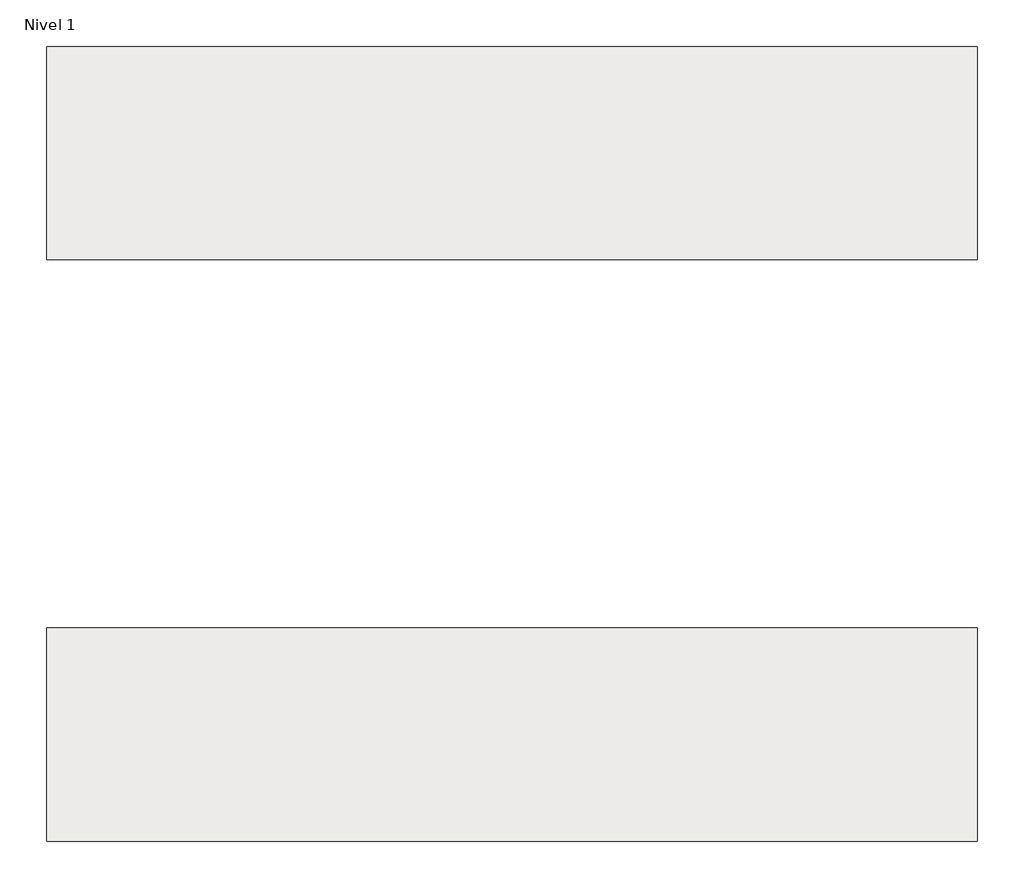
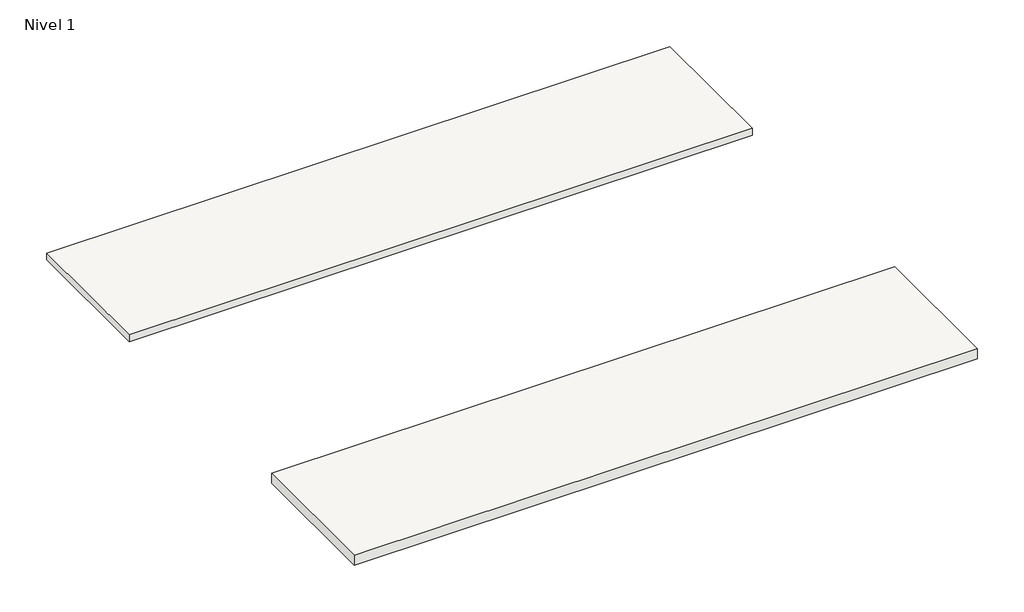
# One storey: 2 coverings.
"""IFC4 building model written with IfcOpenShell, lengths in millimetres."""

from ifc_helpers import new_model, si_unit, frame, origin, place, context, project, spatial, polyline, outline, extrude, element, save

model = new_model("IFC4")

# Units and contexts
model_context = context("Model", 3, world=origin())
ifc_project = project(units=[si_unit("LENGTHUNIT", "METRE", prefix="MILLI")], contexts=[model_context])

# Site, building, storey
site = spatial("IfcSite", under=ifc_project)
building = spatial("IfcBuilding", under=site)
storey = spatial("IfcBuildingStorey", under=building, Name="Nivel 1", Elevation=0.0)

# Coverings
placement = place(None, origin())
element("IfcCovering", 1, ObjectType="Thermochip_COAT", at=placement, inside=storey, context=model_context, shape_type="SweptSolid", body=[
    extrude(outline(polyline([(1184.4345966, -28.6608764), (1184.4345966, -578.6608764), (-1215.5654034, -578.6608764), (-1215.5654034, -28.6608764), (1184.4345966, -28.6608764)])), frame((0.0, 0.0, 100.0), z_axis=(0.0, 0.0, 1.0), x_axis=(1.0, 0.0, 0.0)), (0.0, 0.0, 1.0), 27.5),
])
element("IfcCovering", 2, ObjectType="Thermochip_COAT RF", at=placement, inside=storey, context=model_context, shape_type="SweptSolid", body=[
    extrude(outline(polyline([(1184.4345966, -1528.6608764), (1184.4345966, -2078.6608764), (-1215.5654034, -2078.6608764), (-1215.5654034, -1528.6608764), (1184.4345966, -1528.6608764)])), frame((0.0, 0.0, 100.0), z_axis=(0.0, 0.0, 1.0), x_axis=(1.0, 0.0, 0.0)), (0.0, 0.0, 1.0), 40.0),
])

save(model, "model.ifc")
